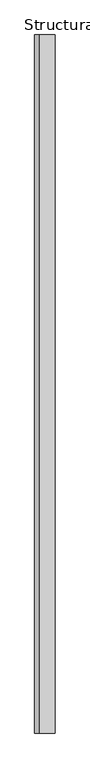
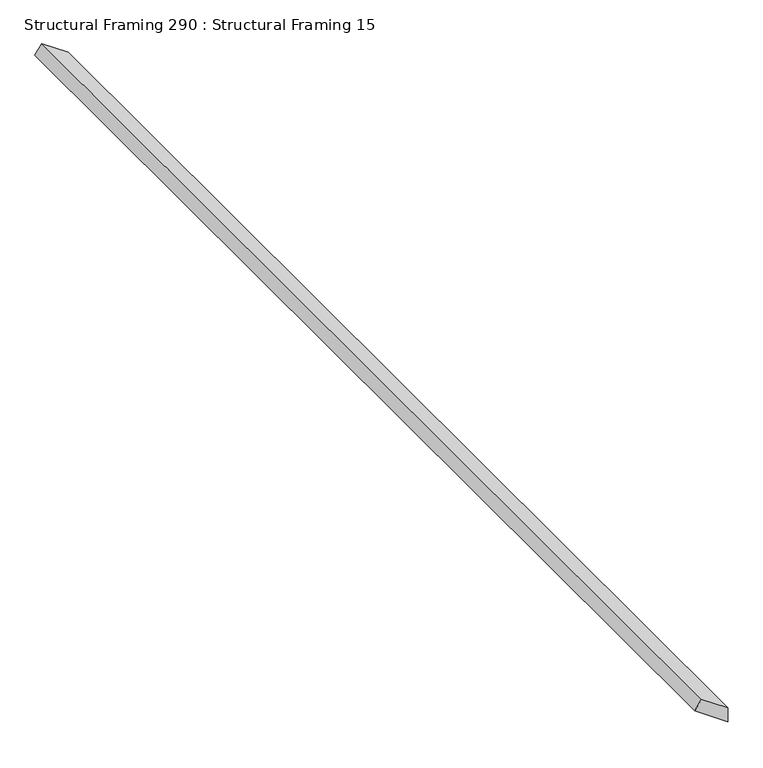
"""IFC4 building model written with IfcOpenShell, lengths in millimetres: beam geometry, Structural Framing 290 : Structural Framing 15."""

from ifc_helpers import new_model, si_unit, frame, origin, place, context, project, spatial, polyline, outline, extrude, source, transform, mapped, element, save


def structural_framing_290_structural_framing_15_fb813978(model_context):
    return source(origin(), model_context, "Body", "SweptSolid", [
        extrude(outline(polyline([(100.0, 5062.7785255), (51.1319528, 5132.5693297), (81.6513175, 5132.5693297), (120.4788011, 5077.1179364), (100.0, 5062.7785255)])), frame((0.0, -6511.9491979, 0.0), z_axis=(0.0, 1.0, 0.0), x_axis=(0.0, 0.0, 1.0)), (0.0, 0.0, 1.0), 2400.0),
    ])


if __name__ == "__main__":
    model = new_model("IFC4")
    model_context = context("Model", 3, world=origin())
    ifc_project = project(units=[si_unit("LENGTHUNIT", "METRE", prefix="MILLI")], contexts=[model_context])
    site = spatial("IfcSite", under=ifc_project)
    building = spatial("IfcBuilding", under=site)
    placement = place(None, origin())
    structural_framing_290_structural_framing_15_shape = structural_framing_290_structural_framing_15_fb813978(model_context)
    element("IfcBeam", 1, ObjectType="Structural Framing 290 : Structural Framing 15", at=placement, inside=building, context=model_context, shape_type="MappedRepresentation", body=[
        mapped(structural_framing_290_structural_framing_15_shape, transform((0.0, 0.0, 0.0), x_axis=(1.0, 0.0, 0.0), y_axis=(0.0, 1.0, 0.0), z_axis=(0.0, 0.0, 1.0))),
    ])
    save(model, "model.ifc")
